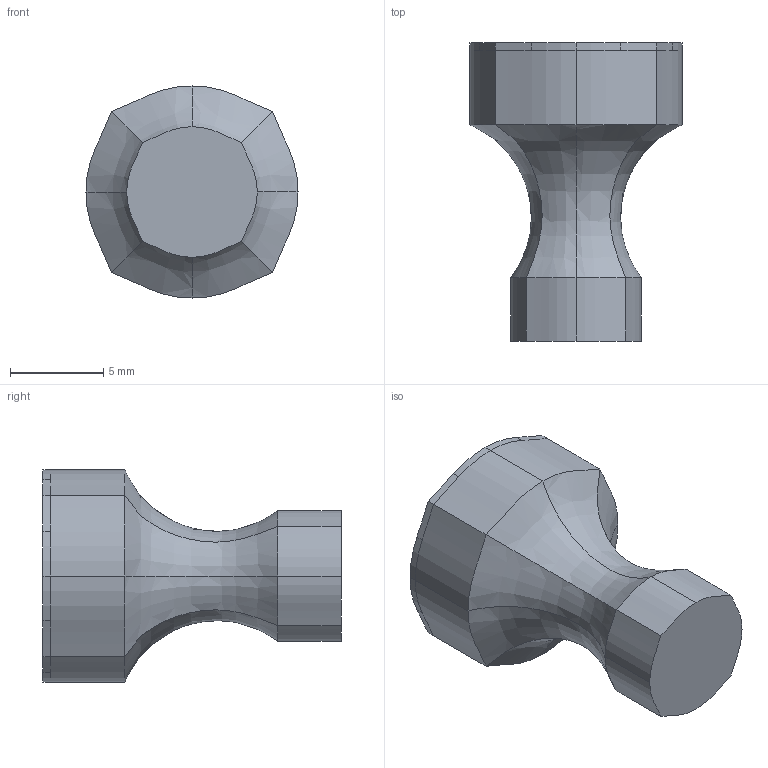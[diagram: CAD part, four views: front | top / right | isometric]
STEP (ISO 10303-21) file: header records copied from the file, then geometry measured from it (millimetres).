
FILE_DESCRIPTION (( 'STEP AP214' ), '1' );
FILE_NAME ('Magnetic_Pawn_PM_v2.0---8x3mm_STEP.STEP', '2025-11-20T17:12:33', ( '' ), ( '' ), 'SwSTEP 2.0', 'SolidWorks 2023', '' );
FILE_SCHEMA (( 'AUTOMOTIVE_DESIGN' ));
Length unit declared in the file: millimetre
Products named in the file (1): Magnetic_Pawn_PM_v2.0---8x3mm_STEP
Bounding box: 11.38 x 16 x 11.38 mm (x, y, z)
Volume: 681.2 mm3; surface area: 780.7 mm2
Topology: 1 solids, 2 shells, 60 faces, 168 edges, 112 vertices
Faces by surface type: bspline 40, cylinder 16, plane 4
Entity records: 3425 total; most frequent: CARTESIAN_POINT 2045, ORIENTED_EDGE 336, DIRECTION 202, EDGE_CURVE 168, VERTEX_POINT 112, AXIS2_PLACEMENT_3D 77, B_SPLINE_CURVE_WITH_KNOTS 64, FACE_OUTER_BOUND 60
